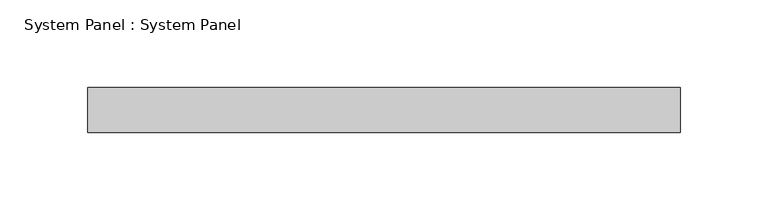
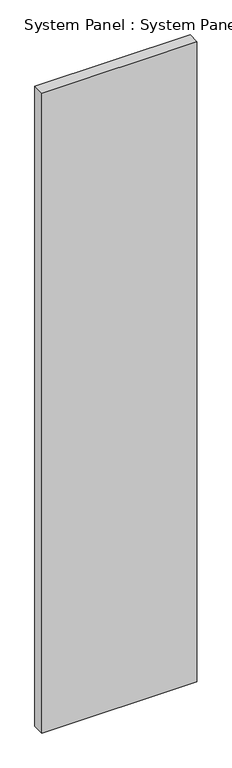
"""IFC4 building model written with IfcOpenShell, lengths in millimetres: plate geometry, System Panel : System Panel."""

from ifc_helpers import new_model, si_unit, origin, origin_with_axes, place, context, project, spatial, polyline, outline, extrude, source, transform, mapped, element, save


def system_panel_system_panel_41236b11(model_context):
    return source(origin(), model_context, "Body", "SweptSolid", [
        extrude(outline(polyline([(168.275, 19.05), (-168.275, 19.05), (-168.275, 44.45), (168.275, 44.45), (168.275, 19.05)])), origin_with_axes(), (0.0, 0.0, 1.0), 1466.85),
    ])


if __name__ == "__main__":
    model = new_model("IFC4")
    model_context = context("Model", 3, world=origin())
    ifc_project = project(units=[si_unit("LENGTHUNIT", "METRE", prefix="MILLI")], contexts=[model_context])
    site = spatial("IfcSite", under=ifc_project)
    building = spatial("IfcBuilding", under=site)
    placement = place(None, origin())
    system_panel_system_panel_shape = system_panel_system_panel_41236b11(model_context)
    element("IfcPlate", 1, ObjectType="System Panel : System Panel", at=placement, inside=building, context=model_context, shape_type="MappedRepresentation", body=[
        mapped(system_panel_system_panel_shape, transform((0.0, 0.0, 0.0), x_axis=(1.0, 0.0, 0.0), y_axis=(0.0, 1.0, 0.0), z_axis=(0.0, 0.0, 1.0))),
    ])
    save(model, "model.ifc")
